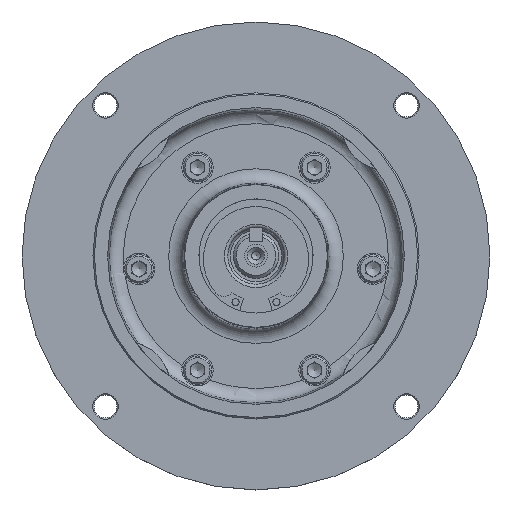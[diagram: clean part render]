
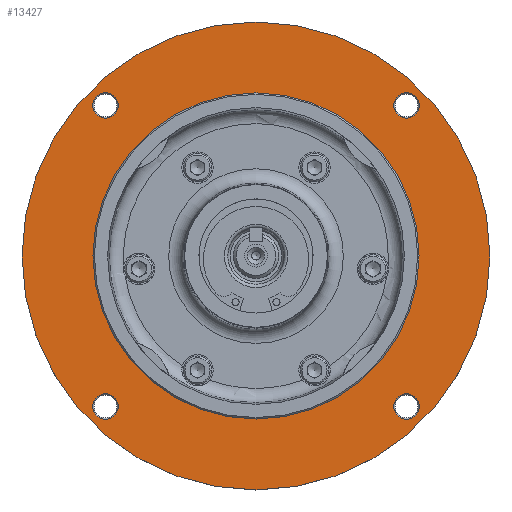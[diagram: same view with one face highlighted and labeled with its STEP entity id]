
A CAD part, top view. The second image highlights one B-rep face of the part: STEP entity #13427.
In plain terms, the highlighted planar face has unit normal (0, 0, 1).
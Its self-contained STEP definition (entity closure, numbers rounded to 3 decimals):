
#152 = CIRCLE ( 'NONE', #24790, 4.469 ) ;
#524 = EDGE_CURVE ( 'NONE', #29886, #29886, #9410, .T. ) ;
#891 = EDGE_LOOP ( 'NONE', ( #30816 ) ) ;
#1002 = CARTESIAN_POINT ( 'NONE',  ( 52.76, -48.26, 43.55 ) ) ;
#3840 = FACE_BOUND ( 'NONE', #4857, .T. ) ;
#4353 = CARTESIAN_POINT ( 'NONE',  ( 0., 4.5, 43.55 ) ) ;
#4436 = AXIS2_PLACEMENT_3D ( 'NONE', #4353, #30440, #9011 ) ;
#4857 = EDGE_LOOP ( 'NONE', ( #17129 ) ) ;
#5029 = CARTESIAN_POINT ( 'NONE',  ( 0., 4.5, 43.55 ) ) ;
#5507 = DIRECTION ( 'NONE',  ( 1., 0., 0. ) ) ;
#5802 = AXIS2_PLACEMENT_3D ( 'NONE', #1002, #18663, #8749 ) ;
#6303 = CARTESIAN_POINT ( 'NONE',  ( 0., 4.5, 43.55 ) ) ;
#6373 = CARTESIAN_POINT ( 'NONE',  ( -48.291, 57.26, 43.55 ) ) ;
#7238 = ORIENTED_EDGE ( 'NONE', *, *, #33726, .T. ) ;
#8089 = CARTESIAN_POINT ( 'NONE',  ( -52.76, -48.26, 43.55 ) ) ;
#8546 = CARTESIAN_POINT ( 'NONE',  ( 57.229, 57.26, 43.55 ) ) ;
#8749 = DIRECTION ( 'NONE',  ( 1., 0., 0. ) ) ;
#9011 = DIRECTION ( 'NONE',  ( 1., 0., 0. ) ) ;
#9173 = FACE_BOUND ( 'NONE', #30278, .T. ) ;
#9385 = DIRECTION ( 'NONE',  ( 1., 0., 0. ) ) ;
#9410 = CIRCLE ( 'NONE', #12115, 4.469 ) ;
#9554 = VERTEX_POINT ( 'NONE', #29963 ) ;
#10383 = CIRCLE ( 'NONE', #10924, 82. ) ;
#10924 = AXIS2_PLACEMENT_3D ( 'NONE', #6303, #31720, #21916 ) ;
#11767 = EDGE_CURVE ( 'NONE', #33309, #33309, #10383, .T. ) ;
#12070 = FACE_BOUND ( 'NONE', #17286, .T. ) ;
#12115 = AXIS2_PLACEMENT_3D ( 'NONE', #17419, #33207, #17764 ) ;
#12255 = EDGE_LOOP ( 'NONE', ( #13675 ) ) ;
#12409 = PLANE ( 'NONE',  #4436 ) ;
#13427 = ADVANCED_FACE ( 'NONE', ( #22708, #12070, #3840, #14313, #22869, #9173 ), #12409, .T. ) ;
#13675 = ORIENTED_EDGE ( 'NONE', *, *, #32240, .T. ) ;
#14313 = FACE_BOUND ( 'NONE', #12255, .T. ) ;
#14613 = AXIS2_PLACEMENT_3D ( 'NONE', #5029, #18062, #25611 ) ;
#14913 = EDGE_CURVE ( 'NONE', #29628, #29628, #152, .T. ) ;
#15031 = DIRECTION ( 'NONE',  ( 0., 0., -1. ) ) ;
#17086 = CIRCLE ( 'NONE', #19184, 4.469 ) ;
#17129 = ORIENTED_EDGE ( 'NONE', *, *, #14913, .T. ) ;
#17286 = EDGE_LOOP ( 'NONE', ( #32975 ) ) ;
#17419 = CARTESIAN_POINT ( 'NONE',  ( -52.76, 57.26, 43.55 ) ) ;
#17764 = DIRECTION ( 'NONE',  ( 1., 0., 0. ) ) ;
#18062 = DIRECTION ( 'NONE',  ( 0., 0., -1. ) ) ;
#18663 = DIRECTION ( 'NONE',  ( 0., 0., -1. ) ) ;
#19184 = AXIS2_PLACEMENT_3D ( 'NONE', #8089, #20789, #5507 ) ;
#19477 = VERTEX_POINT ( 'NONE', #27399 ) ;
#20046 = CIRCLE ( 'NONE', #5802, 4.469 ) ;
#20789 = DIRECTION ( 'NONE',  ( 0., 0., -1. ) ) ;
#21916 = DIRECTION ( 'NONE',  ( 1., 0., 0. ) ) ;
#22413 = CARTESIAN_POINT ( 'NONE',  ( 57.229, -48.26, 43.55 ) ) ;
#22708 = FACE_OUTER_BOUND ( 'NONE', #27461, .T. ) ;
#22869 = FACE_BOUND ( 'NONE', #891, .T. ) ;
#24790 = AXIS2_PLACEMENT_3D ( 'NONE', #33067, #15031, #9385 ) ;
#25611 = DIRECTION ( 'NONE',  ( 1., 0., 0. ) ) ;
#25919 = EDGE_CURVE ( 'NONE', #9554, #9554, #17086, .T. ) ;
#27399 = CARTESIAN_POINT ( 'NONE',  ( 57.15, 4.5, 43.55 ) ) ;
#27461 = EDGE_LOOP ( 'NONE', ( #28797 ) ) ;
#28797 = ORIENTED_EDGE ( 'NONE', *, *, #11767, .T. ) ;
#29628 = VERTEX_POINT ( 'NONE', #8546 ) ;
#29886 = VERTEX_POINT ( 'NONE', #6373 ) ;
#29963 = CARTESIAN_POINT ( 'NONE',  ( -48.291, -48.26, 43.55 ) ) ;
#30278 = EDGE_LOOP ( 'NONE', ( #7238 ) ) ;
#30440 = DIRECTION ( 'NONE',  ( 0., 0., 1. ) ) ;
#30734 = CARTESIAN_POINT ( 'NONE',  ( 82., 4.5, 43.55 ) ) ;
#30816 = ORIENTED_EDGE ( 'NONE', *, *, #25919, .T. ) ;
#31720 = DIRECTION ( 'NONE',  ( 0., 0., 1. ) ) ;
#32169 = CIRCLE ( 'NONE', #14613, 57.15 ) ;
#32240 = EDGE_CURVE ( 'NONE', #33224, #33224, #20046, .T. ) ;
#32975 = ORIENTED_EDGE ( 'NONE', *, *, #524, .T. ) ;
#33067 = CARTESIAN_POINT ( 'NONE',  ( 52.76, 57.26, 43.55 ) ) ;
#33207 = DIRECTION ( 'NONE',  ( 0., 0., -1. ) ) ;
#33224 = VERTEX_POINT ( 'NONE', #22413 ) ;
#33309 = VERTEX_POINT ( 'NONE', #30734 ) ;
#33726 = EDGE_CURVE ( 'NONE', #19477, #19477, #32169, .T. ) ;
